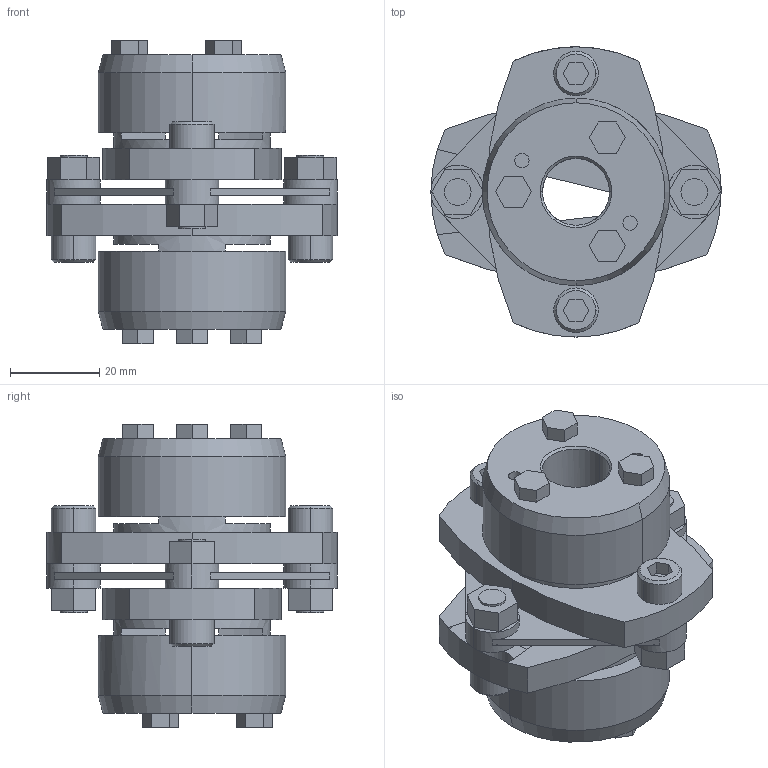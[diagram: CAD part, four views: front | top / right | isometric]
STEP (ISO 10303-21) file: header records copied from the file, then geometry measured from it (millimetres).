
FILE_DESCRIPTION((''),'2;1');
FILE_NAME('LCS-65T7-15×15.stp','2011-08-23T13:04:45',(''),(''),'AutoCAD STEP 2000i','AutoCAD 2000i',', , ');
FILE_SCHEMA(('CONFIG_CONTROL_DESIGN'));
Length unit declared in the file: millimetre
Products named in the file (5): LCS-65T7-15×15; 忣兜1; LC65T7-T015-1; LC65T7-T015; LCS65-ITA
Assembly tree (4 placements, depth 2):
  LCS-65T7-15×15
    忣兜1
    LC65T7-T015-1
    LC65T7-T015
    LCS65-ITA
Bounding box: 65 x 65 x 67.9 mm (x, y, z)
Volume: 83137.4 mm3; surface area: 28267.6 mm2
Topology: 1 solids, 1 shells, 220 faces, 564 edges, 368 vertices
Faces by surface type: plane 132, cylinder 68, cone 20
Entity records: 6879 total; most frequent: DIRECTION 1210, CARTESIAN_POINT 1157, ORIENTED_EDGE 1128, EDGE_CURVE 564, AXIS2_PLACEMENT_3D 421, VERTEX_POINT 368, VECTOR 368, LINE 368
